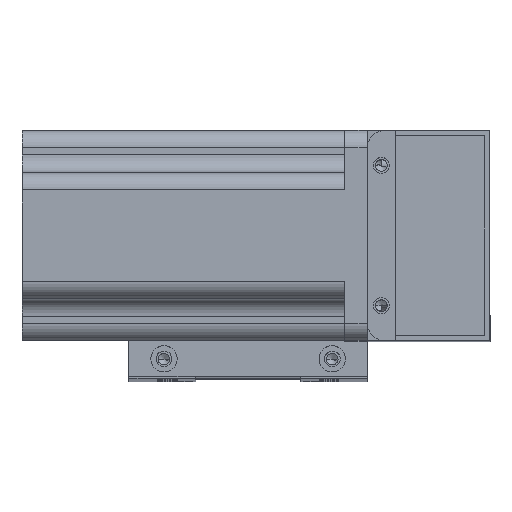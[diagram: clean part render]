
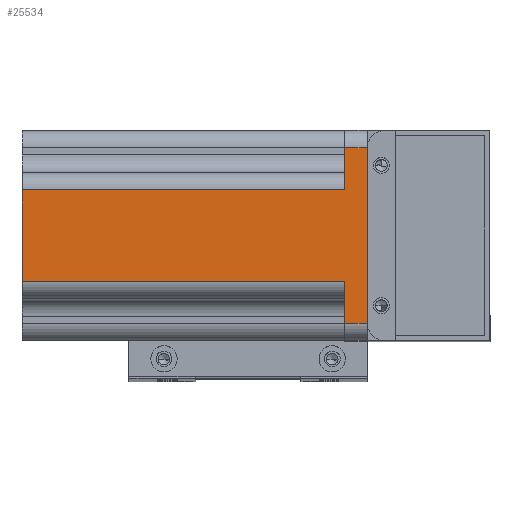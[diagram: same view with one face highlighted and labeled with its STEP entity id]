
A CAD part, top view. The second image highlights one B-rep face of the part: STEP entity #25534.
In plain terms, the highlighted planar face has unit normal (0, 0, 1) as drawn and (0, 1, 0) by its records, which use the part's own axes.
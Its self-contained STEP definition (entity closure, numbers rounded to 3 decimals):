
#56 = ORIENTED_EDGE ( 'NONE', *, *, #5923, .F. ) ;
#268 = VERTEX_POINT ( 'NONE', #8951 ) ;
#557 = CARTESIAN_POINT ( 'NONE',  ( 25., 30., 0. ) ) ;
#1974 = CARTESIAN_POINT ( 'NONE',  ( 25., 30., 6.5 ) ) ;
#2574 = VECTOR ( 'NONE', #22113, 1000. ) ;
#3139 = VECTOR ( 'NONE', #15583, 1000. ) ;
#3152 = EDGE_CURVE ( 'NONE', #6133, #23040, #23456, .T. ) ;
#3357 = VECTOR ( 'NONE', #14442, 1000. ) ;
#3422 = CARTESIAN_POINT ( 'NONE',  ( -25., 30., 6.5 ) ) ;
#4084 = VERTEX_POINT ( 'NONE', #557 ) ;
#4853 = VECTOR ( 'NONE', #22371, 1000. ) ;
#5424 = CARTESIAN_POINT ( 'NONE',  ( -13., 30., 6.5 ) ) ;
#5923 = EDGE_CURVE ( 'NONE', #20560, #6133, #16020, .T. ) ;
#5987 = DIRECTION ( 'NONE',  ( 0., 0., -1. ) ) ;
#6023 = LINE ( 'NONE', #1974, #3357 ) ;
#6133 = VERTEX_POINT ( 'NONE', #24871 ) ;
#6160 = VERTEX_POINT ( 'NONE', #20461 ) ;
#6536 = EDGE_CURVE ( 'NONE', #10033, #23040, #12691, .T. ) ;
#6847 = LINE ( 'NONE', #17764, #14786 ) ;
#7445 = VECTOR ( 'NONE', #17795, 1000. ) ;
#7639 = FACE_OUTER_BOUND ( 'NONE', #19148, .T. ) ;
#7923 = AXIS2_PLACEMENT_3D ( 'NONE', #3422, #11917, #20029 ) ;
#8439 = CARTESIAN_POINT ( 'NONE',  ( -25., 30., 0. ) ) ;
#8951 = CARTESIAN_POINT ( 'NONE',  ( 13., 30., 0. ) ) ;
#9300 = ORIENTED_EDGE ( 'NONE', *, *, #15015, .T. ) ;
#10033 = VERTEX_POINT ( 'NONE', #15834 ) ;
#11471 = EDGE_CURVE ( 'NONE', #268, #14731, #6847, .T. ) ;
#11828 = PLANE ( 'NONE',  #7923 ) ;
#11917 = DIRECTION ( 'NONE',  ( 0., -1., 0. ) ) ;
#11976 = EDGE_CURVE ( 'NONE', #6160, #14731, #13101, .T. ) ;
#12691 = LINE ( 'NONE', #17845, #14999 ) ;
#13101 = LINE ( 'NONE', #22107, #7445 ) ;
#13144 = ORIENTED_EDGE ( 'NONE', *, *, #3152, .F. ) ;
#14442 = DIRECTION ( 'NONE',  ( 0., 0., -1. ) ) ;
#14731 = VERTEX_POINT ( 'NONE', #24295 ) ;
#14786 = VECTOR ( 'NONE', #24096, 1000. ) ;
#14999 = VECTOR ( 'NONE', #21893, 1000. ) ;
#15015 = EDGE_CURVE ( 'NONE', #20560, #4084, #6023, .T. ) ;
#15583 = DIRECTION ( 'NONE',  ( -1., 0., 0. ) ) ;
#15834 = CARTESIAN_POINT ( 'NONE',  ( -13., 30., 0. ) ) ;
#16020 = LINE ( 'NONE', #19567, #3139 ) ;
#16236 = ORIENTED_EDGE ( 'NONE', *, *, #11976, .F. ) ;
#16397 = LINE ( 'NONE', #22276, #4853 ) ;
#16545 = VECTOR ( 'NONE', #5987, 1000. ) ;
#17764 = CARTESIAN_POINT ( 'NONE',  ( 13., 30., 6.5 ) ) ;
#17795 = DIRECTION ( 'NONE',  ( 1., 0., 0. ) ) ;
#17845 = CARTESIAN_POINT ( 'NONE',  ( -25., 30., 0. ) ) ;
#18014 = CARTESIAN_POINT ( 'NONE',  ( 25., 30., 6.5 ) ) ;
#18539 = CARTESIAN_POINT ( 'NONE',  ( -25., 30., 6.5 ) ) ;
#19076 = LINE ( 'NONE', #5424, #2574 ) ;
#19148 = EDGE_LOOP ( 'NONE', ( #25041, #20047, #16236, #24033, #21492, #13144, #56, #9300 ) ) ;
#19567 = CARTESIAN_POINT ( 'NONE',  ( -25., 30., 6.5 ) ) ;
#20029 = DIRECTION ( 'NONE',  ( 0., 0., -1. ) ) ;
#20047 = ORIENTED_EDGE ( 'NONE', *, *, #11471, .T. ) ;
#20461 = CARTESIAN_POINT ( 'NONE',  ( -13., 30., -92. ) ) ;
#20560 = VERTEX_POINT ( 'NONE', #18014 ) ;
#21122 = EDGE_CURVE ( 'NONE', #6160, #10033, #19076, .T. ) ;
#21492 = ORIENTED_EDGE ( 'NONE', *, *, #6536, .T. ) ;
#21893 = DIRECTION ( 'NONE',  ( -1., 0., 0. ) ) ;
#22107 = CARTESIAN_POINT ( 'NONE',  ( -18., 30., -92. ) ) ;
#22113 = DIRECTION ( 'NONE',  ( 0., 0., 1. ) ) ;
#22276 = CARTESIAN_POINT ( 'NONE',  ( -25., 30., 0. ) ) ;
#22371 = DIRECTION ( 'NONE',  ( -1., 0., 0. ) ) ;
#23040 = VERTEX_POINT ( 'NONE', #8439 ) ;
#23456 = LINE ( 'NONE', #18539, #16545 ) ;
#24033 = ORIENTED_EDGE ( 'NONE', *, *, #21122, .T. ) ;
#24096 = DIRECTION ( 'NONE',  ( 0., 0., -1. ) ) ;
#24295 = CARTESIAN_POINT ( 'NONE',  ( 13., 30., -92. ) ) ;
#24871 = CARTESIAN_POINT ( 'NONE',  ( -25., 30., 6.5 ) ) ;
#25041 = ORIENTED_EDGE ( 'NONE', *, *, #26219, .T. ) ;
#25534 = ADVANCED_FACE ( 'NONE', ( #7639 ), #11828, .F. ) ;
#26219 = EDGE_CURVE ( 'NONE', #4084, #268, #16397, .T. ) ;
